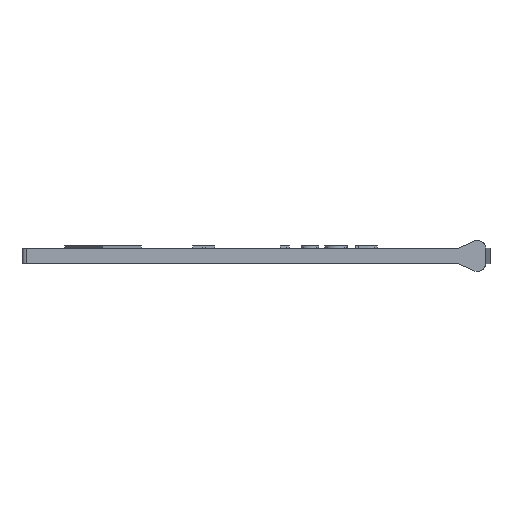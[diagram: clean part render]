
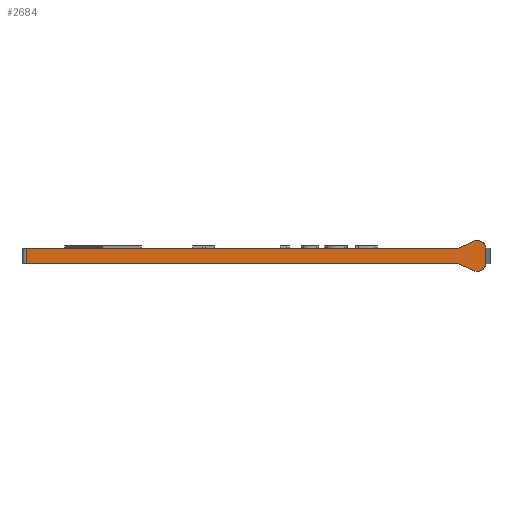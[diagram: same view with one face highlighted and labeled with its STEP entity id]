
A CAD part, front view. The second image highlights one B-rep face of the part: STEP entity #2684.
In plain terms, the highlighted planar face has unit normal (0, -1, 0).
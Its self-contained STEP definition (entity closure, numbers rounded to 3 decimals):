
#37=DIRECTION('',(-1.,0.,0.));
#38=VECTOR('',#37,50.783);
#39=CARTESIAN_POINT('',(439.66,189.098,50.1));
#40=LINE('',#39,#38);
#53=DIRECTION('',(-0.906,0.,-0.423));
#54=VECTOR('',#53,1.98);
#55=CARTESIAN_POINT('',(441.454,189.098,52.737));
#56=LINE('',#55,#54);
#57=DIRECTION('',(0.,0.,1.));
#58=VECTOR('',#57,1.794);
#59=CARTESIAN_POINT('',(442.876,189.098,50.103));
#60=LINE('',#59,#58);
#61=DIRECTION('',(0.906,0.,-0.423));
#62=VECTOR('',#61,1.98);
#63=CARTESIAN_POINT('',(439.66,189.098,50.1));
#64=LINE('',#63,#62);
#73=DIRECTION('',(-1.,0.,0.));
#74=VECTOR('',#73,50.783);
#75=CARTESIAN_POINT('',(439.66,189.098,51.9));
#76=LINE('',#75,#74);
#1092=CARTESIAN_POINT('',(442.876,189.098,51.897));
#1093=CARTESIAN_POINT('',(442.868,189.098,52.013));
#1094=CARTESIAN_POINT('',(442.816,189.098,52.217));
#1095=CARTESIAN_POINT('',(442.644,189.098,52.499));
#1096=CARTESIAN_POINT('',(442.392,189.098,52.707));
#1097=CARTESIAN_POINT('',(442.087,189.098,52.826));
#1098=CARTESIAN_POINT('',(441.759,189.098,52.84));
#1099=CARTESIAN_POINT('',(441.555,189.098,52.784));
#1100=CARTESIAN_POINT('',(441.454,189.098,52.737));
#1119=CARTESIAN_POINT('',(441.454,189.098,49.263));
#1120=CARTESIAN_POINT('',(441.555,189.098,49.216));
#1121=CARTESIAN_POINT('',(441.76,189.098,49.159));
#1122=CARTESIAN_POINT('',(442.089,189.098,49.174));
#1123=CARTESIAN_POINT('',(442.393,189.098,49.293));
#1124=CARTESIAN_POINT('',(442.645,189.098,49.501));
#1125=CARTESIAN_POINT('',(442.816,189.098,49.783));
#1126=CARTESIAN_POINT('',(442.868,189.098,49.987));
#1127=CARTESIAN_POINT('',(442.876,189.098,50.103));
#1162=DIRECTION('',(0.,0.,1.));
#1163=VECTOR('',#1162,1.8);
#1164=CARTESIAN_POINT('',(388.877,189.098,50.1));
#1165=LINE('',#1164,#1163);
#2390=CARTESIAN_POINT('',(388.877,189.098,50.1));
#2391=VERTEX_POINT('',#2390);
#2404=CARTESIAN_POINT('',(388.877,189.098,51.9));
#2405=VERTEX_POINT('',#2404);
#2406=CARTESIAN_POINT('',(441.454,189.098,49.263));
#2408=VERTEX_POINT('',#2406);
#2410=CARTESIAN_POINT('',(441.454,189.098,52.737));
#2412=VERTEX_POINT('',#2410);
#2418=CARTESIAN_POINT('',(439.66,189.098,50.1));
#2419=VERTEX_POINT('',#2418);
#2420=CARTESIAN_POINT('',(442.876,189.098,50.103));
#2421=VERTEX_POINT('',#2420);
#2426=CARTESIAN_POINT('',(439.66,189.098,51.9));
#2427=VERTEX_POINT('',#2426);
#2428=CARTESIAN_POINT('',(442.876,189.098,51.897));
#2429=VERTEX_POINT('',#2428);
#2663=CARTESIAN_POINT('',(442.877,189.098,50.1));
#2664=DIRECTION('',(0.,-1.,0.));
#2665=DIRECTION('',(-1.,0.,0.));
#2666=AXIS2_PLACEMENT_3D('',#2663,#2664,#2665);
#2667=PLANE('',#2666);
#2669=ORIENTED_EDGE('',*,*,#2668,.F.);
#2671=ORIENTED_EDGE('',*,*,#2670,.F.);
#2673=ORIENTED_EDGE('',*,*,#2672,.F.);
#2675=ORIENTED_EDGE('',*,*,#2674,.F.);
#2677=ORIENTED_EDGE('',*,*,#2676,.F.);
#2678=ORIENTED_EDGE('',*,*,#2655,.F.);
#2679=ORIENTED_EDGE('',*,*,#2615,.T.);
#2681=ORIENTED_EDGE('',*,*,#2680,.T.);
#2682=EDGE_LOOP('',(#2669,#2671,#2673,#2675,#2677,#2678,#2679,#2681));
#2683=FACE_OUTER_BOUND('',#2682,.F.);
#2684=ADVANCED_FACE('',(#2683),#2667,.T.);
#1101=B_SPLINE_CURVE_WITH_KNOTS('',3,(#1092,#1093,#1094,#1095,#1096,#1097,#1098,
#1099,#1100),.UNSPECIFIED.,.F.,.F.,(4,1,1,1,1,1,4),(0.,0.167,
0.333,0.5,0.667,0.833,1.),
.UNSPECIFIED.);
#1128=B_SPLINE_CURVE_WITH_KNOTS('',3,(#1119,#1120,#1121,#1122,#1123,#1124,#1125,
#1126,#1127),.UNSPECIFIED.,.F.,.F.,(4,1,1,1,1,1,4),(0.,0.167,
0.333,0.5,0.667,0.833,1.),
.UNSPECIFIED.);
#2615=EDGE_CURVE('',#2419,#2391,#40,.T.);
#2655=EDGE_CURVE('',#2419,#2408,#64,.T.);
#2668=EDGE_CURVE('',#2427,#2405,#76,.T.);
#2670=EDGE_CURVE('',#2412,#2427,#56,.T.);
#2672=EDGE_CURVE('',#2429,#2412,#1101,.T.);
#2674=EDGE_CURVE('',#2421,#2429,#60,.T.);
#2676=EDGE_CURVE('',#2408,#2421,#1128,.T.);
#2680=EDGE_CURVE('',#2391,#2405,#1165,.T.);
